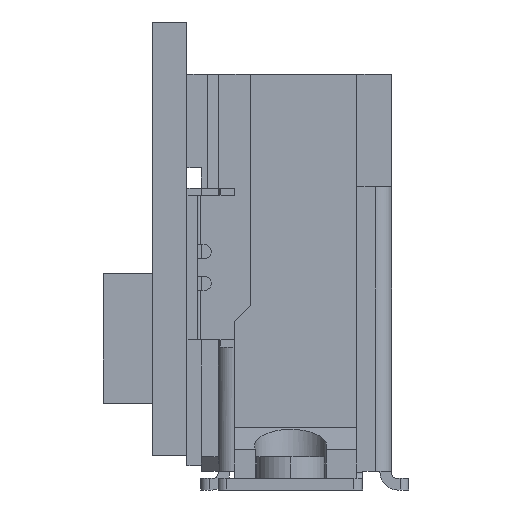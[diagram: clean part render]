
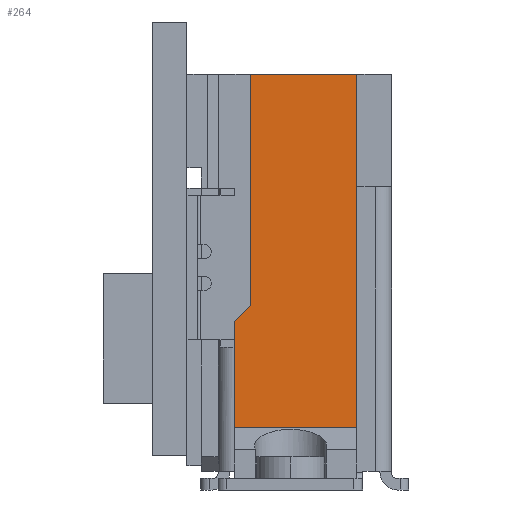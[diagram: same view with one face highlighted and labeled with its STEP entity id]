
A CAD part, left-side view. The second image highlights one B-rep face of the part: STEP entity #264.
In plain terms, the highlighted planar face has unit normal (-1, 0, 0).
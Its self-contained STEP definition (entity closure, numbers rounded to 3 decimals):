
#264=ADVANCED_FACE('',(#751),#4625,.T.);
#751=FACE_OUTER_BOUND('',#1247,.F.);
#1247=EDGE_LOOP('',(#2144,#2145,#2146,#2147,#2148,#2149));
#2144=ORIENTED_EDGE('',*,*,#6507,.F.);
#2145=ORIENTED_EDGE('',*,*,#5886,.F.);
#2146=ORIENTED_EDGE('',*,*,#5393,.T.);
#2147=ORIENTED_EDGE('',*,*,#6508,.T.);
#2148=ORIENTED_EDGE('',*,*,#6509,.F.);
#2149=ORIENTED_EDGE('',*,*,#6510,.T.);
#4625=PLANE('',#10308);
#5393=EDGE_CURVE('',#9837,#9838,#6787,.T.);
#5886=EDGE_CURVE('',#9837,#9498,#7207,.T.);
#6507=EDGE_CURVE('',#9498,#9138,#7769,.T.);
#6508=EDGE_CURVE('',#9838,#9137,#7770,.T.);
#6509=EDGE_CURVE('',#9136,#9137,#7771,.T.);
#6510=EDGE_CURVE('',#9136,#9138,#7772,.T.);
#6787=LINE('',#14485,#8036);
#7207=LINE('',#15082,#8456);
#7769=LINE('',#15703,#9018);
#7770=LINE('',#15704,#9019);
#7771=LINE('',#15705,#9020);
#7772=LINE('',#15706,#9021);
#8036=VECTOR('',#10995,12.231);
#8456=VECTOR('',#11529,3.69);
#9018=VECTOR('',#12209,8.);
#9019=VECTOR('',#12210,4.25);
#9020=VECTOR('',#12211,3.671);
#9021=VECTOR('',#12212,0.792);
#9136=VERTEX_POINT('',#13328);
#9137=VERTEX_POINT('',#13329);
#9138=VERTEX_POINT('',#13330);
#9498=VERTEX_POINT('',#13690);
#9837=VERTEX_POINT('',#14029);
#9838=VERTEX_POINT('',#14030);
#10308=AXIS2_PLACEMENT_3D('',#15903,#12484,#12485);
#10995=DIRECTION('',(0.,0.,-1.));
#11529=DIRECTION('',(0.,1.,0.));
#12209=DIRECTION('',(0.,0.,-1.));
#12210=DIRECTION('',(0.,1.,0.));
#12211=DIRECTION('',(0.,0.,-1.));
#12212=DIRECTION('',(0.,-0.707,0.707));
#12484=DIRECTION('',(-1.,0.,0.));
#12485=DIRECTION('',(0.,0.,-1.));
#13328=CARTESIAN_POINT('',(-0.825,-10.987,-65.255));
#13329=CARTESIAN_POINT('',(-0.825,-10.987,-68.925));
#13330=CARTESIAN_POINT('',(-0.825,-11.547,-64.695));
#13690=CARTESIAN_POINT('',(-0.825,-11.547,-56.695));
#14029=CARTESIAN_POINT('',(-0.825,-15.237,-56.695));
#14030=CARTESIAN_POINT('',(-0.825,-15.237,-68.925));
#14485=CARTESIAN_POINT('',(-0.825,-15.237,-56.695));
#15082=CARTESIAN_POINT('',(-0.825,-15.237,-56.695));
#15703=CARTESIAN_POINT('',(-0.825,-11.547,-56.695));
#15704=CARTESIAN_POINT('',(-0.825,-15.237,-68.925));
#15705=CARTESIAN_POINT('',(-0.825,-10.987,-65.255));
#15706=CARTESIAN_POINT('',(-0.825,-10.987,-65.255));
#15903=CARTESIAN_POINT('',(-0.825,-10.375,-56.083));
